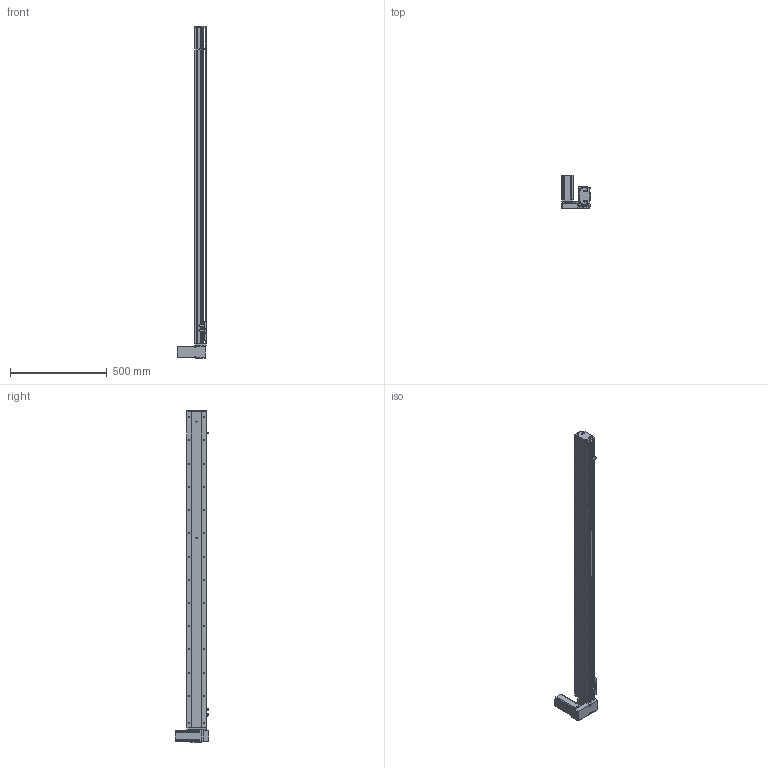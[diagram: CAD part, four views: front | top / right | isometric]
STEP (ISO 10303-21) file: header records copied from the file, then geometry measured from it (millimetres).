
FILE_DESCRIPTION (( 'STEP AP214' ), '1' );
FILE_NAME ('KSD100B-S1450-MRD-CM.STEP', '2019-11-11T08:42:09', ( '微软用户' ), ( '微软中国' ), 'SwSTEP 2.0', 'SolidWorks 2014', '' );
FILE_SCHEMA (( 'AUTOMOTIVE_DESIGN' ));
Length unit declared in the file: millimetre
Products named in the file (12): 悵誘欶奻狟殏; 100宽马达安装板连板上下折丝杆同步带; 台达ECMA－C20604AS伺服电机; U倰嫖萇EEㄜSX672; 覜茼え100遵圉猾敕; 100宽防尘板1450行程-同步带; 100宽马达安装板同步带右; 100宽同步带安装板半封闭; 100宽马达安装板同步带; 100遵傷啣肮祭湍; 100宽底板半封闭同步带1450行程; KSD100B-S1450-MRD-CM
Assembly tree (13 placements, depth 2):
  KSD100B-S1450-MRD-CM
    100宽底板半封闭同步带1450行程
    100遵傷啣肮祭湍
    100宽马达安装板同步带
    100宽同步带安装板半封闭
    100宽马达安装板同步带右
    100宽防尘板1450行程-同步带
    覜茼え100遵圉猾敕
    U倰嫖萇EEㄜSX672  x3
    台达ECMA－C20604AS伺服电机
    100宽马达安装板连板上下折丝杆同步带
    悵誘欶奻狟殏
Bounding box: 148 x 174.7 x 1715 mm (x, y, z)
Volume: 3666050.1 mm3; surface area: 1242961.8 mm2
Topology: 14 solids, 14 shells, 1597 faces, 4520 edges, 2857 vertices
Faces by surface type: cylinder 823, plane 607, cone 167
Entity records: 58053 total; most frequent: CARTESIAN_POINT 12134, DIRECTION 7872, ORIENTED_EDGE 7612, EDGE_CURVE 3806, AXIS2_PLACEMENT_3D 2893, VERTEX_POINT 2481, LINE 2086, VECTOR 2086
